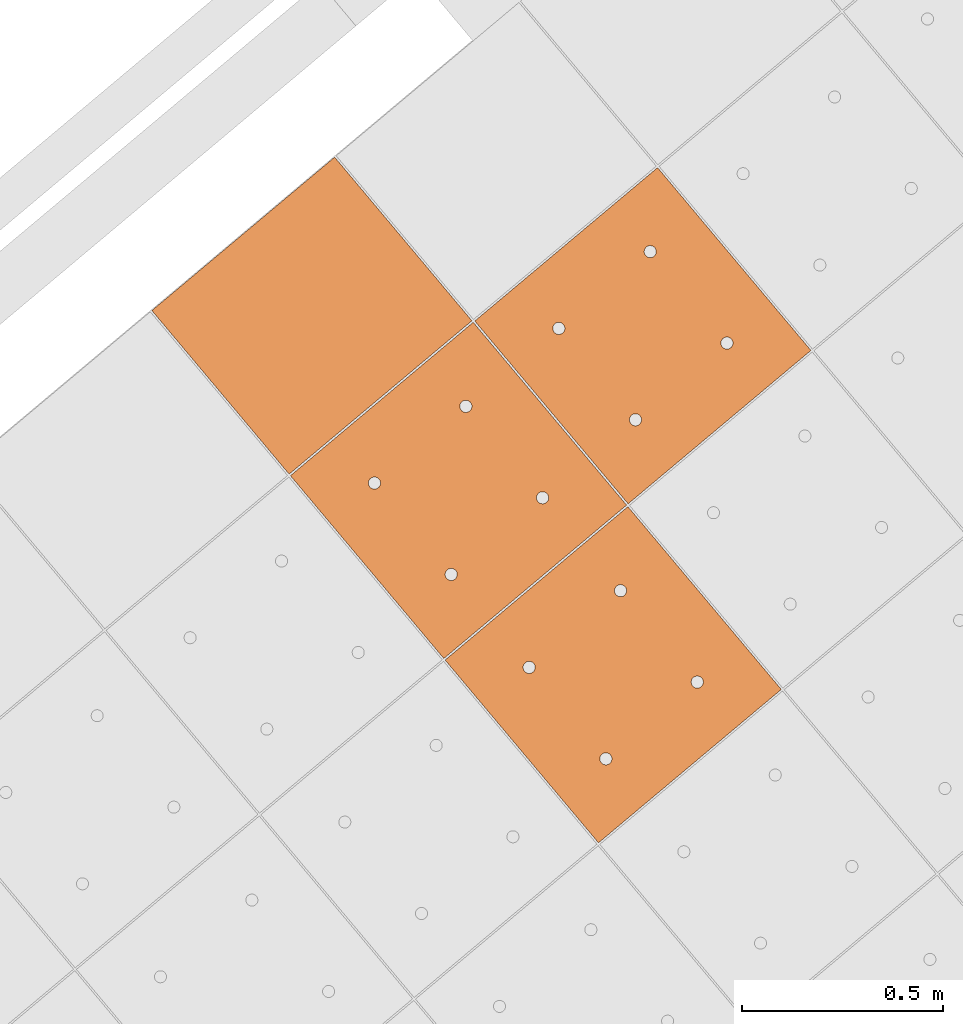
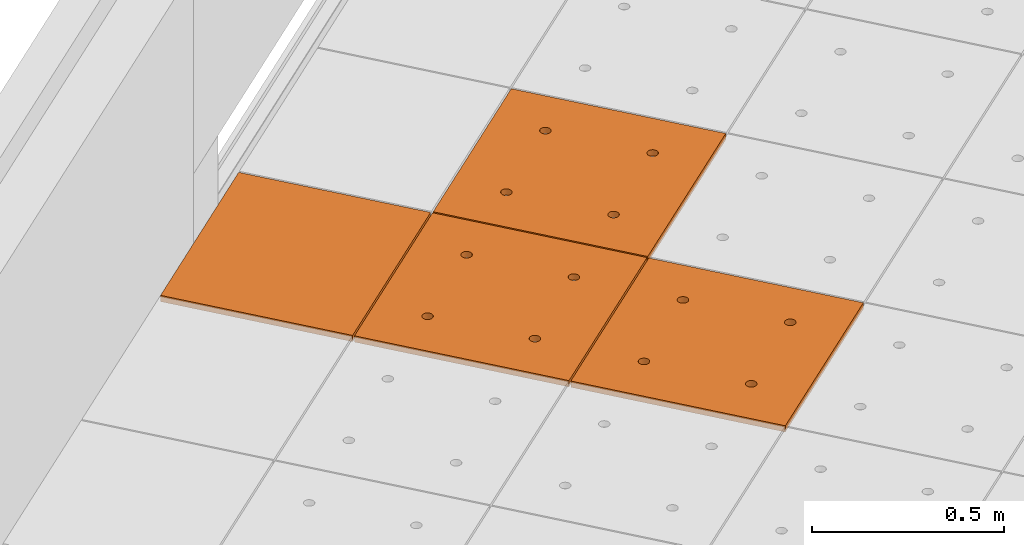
# One storey, part 154 of 338: 4 proxies, 1 element without a shape of its own.
"""IFC2X3 building model written with IfcOpenShell, lengths in millimetres."""

from ifc_helpers import new_model, entity, si_unit, converted_unit, derived_unit, money_unit, direction, frame, origin_with_axes, place, context, subcontext, project, spatial, faceted_brep, source, transform, mapped, material, type_object, type_shapes, element, aggregate, save


model = new_model("IFC2X3")

# Units and contexts
model_context = context("Model", 3, precision=0.01, world=origin_with_axes(), true_north=direction((0.0, 1.0)))
plan_context = context("Plan", 3, precision=0.01, world=origin_with_axes(), true_north=direction((0.0, 1.0)))
body_context = subcontext(model_context, "Body", "Model", "MODEL_VIEW")
ifc_project = project(units=[si_unit("LENGTHUNIT", "METRE", prefix="MILLI"), si_unit("AREAUNIT", "SQUARE_METRE"), si_unit("VOLUMEUNIT", "CUBIC_METRE"), converted_unit("PLANEANGLEUNIT", "DEGREE", entity("IfcPlaneAngleMeasure", 0.0174532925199), si_unit("PLANEANGLEUNIT", "RADIAN"), dimensions=[0, 0, 0, 0, 0, 0, 0]), money_unit("EUR"), converted_unit("TIMEUNIT", "Year", entity("IfcTimeMeasure", 31556926.0), si_unit("TIMEUNIT", "SECOND"), dimensions=[0, 0, 1, 0, 0, 0, 0]), si_unit("MASSUNIT", "GRAM", prefix="KILO"), si_unit("THERMODYNAMICTEMPERATUREUNIT", "DEGREE_CELSIUS"), si_unit("LUMINOUSINTENSITYUNIT", "LUMEN"), si_unit("ENERGYUNIT", "JOULE", prefix="MEGA"), derived_unit("THERMALCONDUCTANCEUNIT", [(si_unit("POWERUNIT", "WATT"), 1), (si_unit("LENGTHUNIT", "METRE"), -1), (si_unit("THERMODYNAMICTEMPERATUREUNIT", "KELVIN"), -1)]), derived_unit("SPECIFICHEATCAPACITYUNIT", [(si_unit("ENERGYUNIT", "JOULE"), 1), (si_unit("MASSUNIT", "GRAM", prefix="KILO"), -1), (si_unit("THERMODYNAMICTEMPERATUREUNIT", "KELVIN"), -1)]), derived_unit("MASSDENSITYUNIT", [(si_unit("MASSUNIT", "GRAM", prefix="KILO"), 1), (si_unit("VOLUMEUNIT", "CUBIC_METRE"), -1)])], contexts=[model_context, plan_context])

# Site, building, storey
site_placement = place(None, origin_with_axes())
site = spatial("IfcSite", under=ifc_project, at=site_placement, Name="Fortuinstraat Woensdrecht", CompositionType="ELEMENT")
building_placement = place(site_placement, origin_with_axes())
building = spatial("IfcBuilding", under=site, at=building_placement, Name="IKC Fortuna", CompositionType="ELEMENT")
storey_placement = place(building_placement, origin_with_axes())
storey = spatial("IfcBuildingStorey", under=building, at=storey_placement, Name="00 begane grond", CompositionType="ELEMENT", Elevation=0.0)

# Covering, proxies
covering_type = type_object("IfcCoveringType", Name="Curtain Wall Type", PredefinedType="CEILING")
covering_placement = place(storey_placement, frame((9775.85169731, -1002.28242867, 4660.0), z_axis=(0.0, 0.0, 1.0), x_axis=(1.0, 0.0, 0.0)))
covering = element("IfcCovering", 1, at=covering_placement, inside=storey, type_object=covering_type, Name="45_Plafondafwerking_P01", PredefinedType="CEILING")
ifc_material = material(Name="Gipsplaat")
building_element_proxy_type_1 = type_object("IfcBuildingElementProxyType", Name="Main Panel 600 x 600 x 20", PredefinedType="NOTDEFINED")
shared_shape_1 = source(origin_with_axes(), body_context, "Body", "Brep", [
    faceted_brep([(2.49999999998, 2.49999999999, -10.0), (300.0, 2.49999999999, -10.0), (300.0, 2.49999999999, 10.0), (2.49999999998, 2.49999999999, 10.0), (2.49999999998, 300.0, -10.0), (2.49999999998, 597.5, -10.0), (300.0, 597.5, -10.0), (597.5, 597.5, -10.0), (597.5, 300.0, -10.0), (597.5, 2.49999999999, -10.0), (166.25, 450.06232995, -10.0), (165.79423259, 452.64711538, -10.0), (164.896546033, 455.11348892, -10.0), (163.58421608, 457.38651108, -10.0), (161.897117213, 459.39711721, -10.0), (159.886511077, 461.08421608, -10.0), (157.613488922, 462.39654603, -10.0), (155.147115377, 463.29423259, -10.0), (152.562329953, 463.75, -10.0), (149.937670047, 463.75, -10.0), (147.352884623, 463.29423259, -10.0), (144.886511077, 462.39654603, -10.0), (142.613488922, 461.08421608, -10.0), (140.602882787, 459.39711721, -10.0), (138.91578392, 457.38651108, -10.0), (137.603453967, 455.11348892, -10.0), (136.705767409, 452.64711538, -10.0), (136.25, 450.06232995, -10.0), (136.25, 448.75, -10.0), (136.25, 447.43767005, -10.0), (136.705767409, 444.85288462, -10.0), (137.603453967, 442.38651108, -10.0), (138.91578392, 440.11348892, -10.0), (140.602882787, 438.10288279, -10.0), (142.613488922, 436.41578392, -10.0), (144.886511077, 435.10345397, -10.0), (147.352884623, 434.20576741, -10.0), (149.937670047, 433.75, -10.0), (152.562329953, 433.75, -10.0), (155.147115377, 434.20576741, -10.0), (157.613488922, 435.10345397, -10.0), (159.886511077, 436.41578392, -10.0), (161.897117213, 438.10288279, -10.0), (163.58421608, 440.11348892, -10.0), (164.896546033, 442.38651108, -10.0), (165.79423259, 444.85288462, -10.0), (166.25, 447.43767005, -10.0), (463.75, 450.06232995, -10.0), (463.29423259, 452.64711538, -10.0), (462.396546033, 455.11348892, -10.0), (461.08421608, 457.38651108, -10.0), (459.397117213, 459.39711721, -10.0), (457.386511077, 461.08421608, -10.0), (455.113488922, 462.39654603, -10.0), (452.647115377, 463.29423259, -10.0), (450.062329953, 463.75, -10.0), (447.437670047, 463.75, -10.0), (444.852884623, 463.29423259, -10.0), (442.386511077, 462.39654603, -10.0), (440.113488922, 461.08421608, -10.0), (438.102882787, 459.39711721, -10.0), (436.41578392, 457.38651108, -10.0), (435.103453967, 455.11348892, -10.0), (434.205767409, 452.64711538, -10.0), (433.75, 450.06232995, -10.0), (433.75, 448.75, -10.0), (433.75, 447.43767005, -10.0), (434.205767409, 444.85288462, -10.0), (435.103453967, 442.38651108, -10.0), (436.41578392, 440.11348892, -10.0), (438.102882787, 438.10288279, -10.0), (440.113488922, 436.41578392, -10.0), (442.386511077, 435.10345397, -10.0), (444.852884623, 434.20576741, -10.0), (447.437670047, 433.75, -10.0), (450.062329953, 433.75, -10.0), (452.647115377, 434.20576741, -10.0), (455.113488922, 435.10345397, -10.0), (457.386511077, 436.41578392, -10.0), (459.397117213, 438.10288279, -10.0), (461.08421608, 440.11348892, -10.0), (462.396546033, 442.38651108, -10.0), (463.29423259, 444.85288462, -10.0), (463.75, 447.43767005, -10.0), (463.75, 152.56232995, -10.0), (463.29423259, 155.14711538, -10.0), (462.396546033, 157.61348892, -10.0), (461.08421608, 159.88651108, -10.0), (459.397117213, 161.89711721, -10.0), (457.386511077, 163.58421608, -10.0), (455.113488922, 164.89654603, -10.0), (452.647115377, 165.79423259, -10.0), (450.062329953, 166.25, -10.0), (447.437670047, 166.25, -10.0), (444.852884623, 165.79423259, -10.0), (442.386511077, 164.89654603, -10.0), (440.113488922, 163.58421608, -10.0), (438.102882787, 161.89711721, -10.0), (436.41578392, 159.88651108, -10.0), (435.103453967, 157.61348892, -10.0), (434.205767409, 155.14711538, -10.0), (433.75, 152.56232995, -10.0), (433.75, 151.25, -10.0), (433.75, 149.93767005, -10.0), (434.205767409, 147.35288462, -10.0), (435.103453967, 144.88651108, -10.0), (436.41578392, 142.61348892, -10.0), (438.102882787, 140.60288279, -10.0), (440.113488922, 138.91578392, -10.0), (442.386511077, 137.60345397, -10.0), (444.852884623, 136.70576741, -10.0), (447.437670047, 136.25, -10.0), (450.062329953, 136.25, -10.0), (452.647115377, 136.70576741, -10.0), (455.113488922, 137.60345397, -10.0), (457.386511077, 138.91578392, -10.0), (459.397117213, 140.60288279, -10.0), (461.08421608, 142.61348892, -10.0), (462.396546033, 144.88651108, -10.0), (463.29423259, 147.35288462, -10.0), (463.75, 149.93767005, -10.0), (166.25, 152.56232995, -10.0), (165.79423259, 155.14711538, -10.0), (164.896546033, 157.61348892, -10.0), (163.58421608, 159.88651108, -10.0), (161.897117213, 161.89711721, -10.0), (159.886511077, 163.58421608, -10.0), (157.613488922, 164.89654603, -10.0), (155.147115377, 165.79423259, -10.0), (152.562329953, 166.25, -10.0), (149.937670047, 166.25, -10.0), (147.352884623, 165.79423259, -10.0), (144.886511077, 164.89654603, -10.0), (142.613488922, 163.58421608, -10.0), (140.602882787, 161.89711721, -10.0), (138.91578392, 159.88651108, -10.0), (137.603453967, 157.61348892, -10.0), (136.705767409, 155.14711538, -10.0), (136.25, 152.56232995, -10.0), (136.25, 151.25, -10.0), (136.25, 149.93767005, -10.0), (136.705767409, 147.35288462, -10.0), (137.603453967, 144.88651108, -10.0), (138.91578392, 142.61348892, -10.0), (140.602882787, 140.60288279, -10.0), (142.613488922, 138.91578392, -10.0), (144.886511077, 137.60345397, -10.0), (147.352884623, 136.70576741, -10.0), (149.937670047, 136.25, -10.0), (152.562329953, 136.25, -10.0), (155.147115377, 136.70576741, -10.0), (157.613488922, 137.60345397, -10.0), (159.886511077, 138.91578392, -10.0), (161.897117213, 140.60288279, -10.0), (163.58421608, 142.61348892, -10.0), (164.896546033, 144.88651108, -10.0), (165.79423259, 147.35288462, -10.0), (166.25, 149.93767005, -10.0), (597.5, 2.49999999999, 10.0), (597.5, 300.0, 10.0), (597.5, 597.5, 10.0), (300.0, 597.5, 10.0), (2.49999999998, 597.5, 10.0), (2.49999999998, 300.0, 10.0), (166.25, 450.06232995, 10.0), (166.25, 447.43767005, 10.0), (165.79423259, 444.85288462, 10.0), (164.896546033, 442.38651108, 10.0), (163.58421608, 440.11348892, 10.0), (161.897117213, 438.10288279, 10.0), (159.886511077, 436.41578392, 10.0), (157.613488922, 435.10345397, 10.0), (155.147115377, 434.20576741, 10.0), (152.562329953, 433.75, 10.0), (149.937670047, 433.75, 10.0), (147.352884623, 434.20576741, 10.0), (144.886511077, 435.10345397, 10.0), (142.613488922, 436.41578392, 10.0), (140.602882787, 438.10288279, 10.0), (138.91578392, 440.11348892, 10.0), (137.603453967, 442.38651108, 10.0), (136.705767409, 444.85288462, 10.0), (136.25, 447.43767005, 10.0), (136.25, 448.75, 10.0), (136.25, 450.06232995, 10.0), (136.705767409, 452.64711538, 10.0), (137.603453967, 455.11348892, 10.0), (138.91578392, 457.38651108, 10.0), (140.602882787, 459.39711721, 10.0), (142.613488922, 461.08421608, 10.0), (144.886511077, 462.39654603, 10.0), (147.352884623, 463.29423259, 10.0), (149.937670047, 463.75, 10.0), (152.562329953, 463.75, 10.0), (155.147115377, 463.29423259, 10.0), (157.613488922, 462.39654603, 10.0), (159.886511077, 461.08421608, 10.0), (161.897117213, 459.39711721, 10.0), (163.58421608, 457.38651108, 10.0), (164.896546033, 455.11348892, 10.0), (165.79423259, 452.64711538, 10.0), (463.75, 450.06232995, 10.0), (463.75, 447.43767005, 10.0), (463.29423259, 444.85288462, 10.0), (462.396546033, 442.38651108, 10.0), (461.08421608, 440.11348892, 10.0), (459.397117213, 438.10288279, 10.0), (457.386511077, 436.41578392, 10.0), (455.113488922, 435.10345397, 10.0), (452.647115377, 434.20576741, 10.0), (450.062329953, 433.75, 10.0), (447.437670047, 433.75, 10.0), (444.852884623, 434.20576741, 10.0), (442.386511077, 435.10345397, 10.0), (440.113488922, 436.41578392, 10.0), (438.102882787, 438.10288279, 10.0), (436.41578392, 440.11348892, 10.0), (435.103453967, 442.38651108, 10.0), (434.205767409, 444.85288462, 10.0), (433.75, 447.43767005, 10.0), (433.75, 448.75, 10.0), (433.75, 450.06232995, 10.0), (434.205767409, 452.64711538, 10.0), (435.103453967, 455.11348892, 10.0), (436.41578392, 457.38651108, 10.0), (438.102882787, 459.39711721, 10.0), (440.113488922, 461.08421608, 10.0), (442.386511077, 462.39654603, 10.0), (444.852884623, 463.29423259, 10.0), (447.437670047, 463.75, 10.0), (450.062329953, 463.75, 10.0), (452.647115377, 463.29423259, 10.0), (455.113488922, 462.39654603, 10.0), (457.386511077, 461.08421608, 10.0), (459.397117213, 459.39711721, 10.0), (461.08421608, 457.38651108, 10.0), (462.396546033, 455.11348892, 10.0), (463.29423259, 452.64711538, 10.0), (463.75, 152.56232995, 10.0), (463.75, 149.93767005, 10.0), (463.29423259, 147.35288462, 10.0), (462.396546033, 144.88651108, 10.0), (461.08421608, 142.61348892, 10.0), (459.397117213, 140.60288279, 10.0), (457.386511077, 138.91578392, 10.0), (455.113488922, 137.60345397, 10.0), (452.647115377, 136.70576741, 10.0), (450.062329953, 136.25, 10.0), (447.437670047, 136.25, 10.0), (444.852884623, 136.70576741, 10.0), (442.386511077, 137.60345397, 10.0), (440.113488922, 138.91578392, 10.0), (438.102882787, 140.60288279, 10.0), (436.41578392, 142.61348892, 10.0), (435.103453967, 144.88651108, 10.0), (434.205767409, 147.35288462, 10.0), (433.75, 149.93767005, 10.0), (433.75, 151.25, 10.0), (433.75, 152.56232995, 10.0), (434.205767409, 155.14711538, 10.0), (435.103453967, 157.61348892, 10.0), (436.41578392, 159.88651108, 10.0), (438.102882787, 161.89711721, 10.0), (440.113488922, 163.58421608, 10.0), (442.386511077, 164.89654603, 10.0), (444.852884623, 165.79423259, 10.0), (447.437670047, 166.25, 10.0), (450.062329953, 166.25, 10.0), (452.647115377, 165.79423259, 10.0), (455.113488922, 164.89654603, 10.0), (457.386511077, 163.58421608, 10.0), (459.397117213, 161.89711721, 10.0), (461.08421608, 159.88651108, 10.0), (462.396546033, 157.61348892, 10.0), (463.29423259, 155.14711538, 10.0), (166.25, 152.56232995, 10.0), (166.25, 149.93767005, 10.0), (165.79423259, 147.35288462, 10.0), (164.896546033, 144.88651108, 10.0), (163.58421608, 142.61348892, 10.0), (161.897117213, 140.60288279, 10.0), (159.886511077, 138.91578392, 10.0), (157.613488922, 137.60345397, 10.0), (155.147115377, 136.70576741, 10.0), (152.562329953, 136.25, 10.0), (149.937670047, 136.25, 10.0), (147.352884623, 136.70576741, 10.0), (144.886511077, 137.60345397, 10.0), (142.613488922, 138.91578392, 10.0), (140.602882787, 140.60288279, 10.0), (138.91578392, 142.61348892, 10.0), (137.603453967, 144.88651108, 10.0), (136.705767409, 147.35288462, 10.0), (136.25, 149.93767005, 10.0), (136.25, 151.25, 10.0), (136.25, 152.56232995, 10.0), (136.705767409, 155.14711538, 10.0), (137.603453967, 157.61348892, 10.0), (138.91578392, 159.88651108, 10.0), (140.602882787, 161.89711721, 10.0), (142.613488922, 163.58421608, 10.0), (144.886511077, 164.89654603, 10.0), (147.352884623, 165.79423259, 10.0), (149.937670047, 166.25, 10.0), (152.562329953, 166.25, 10.0), (155.147115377, 165.79423259, 10.0), (157.613488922, 164.89654603, 10.0), (159.886511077, 163.58421608, 10.0), (161.897117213, 161.89711721, 10.0), (163.58421608, 159.88651108, 10.0), (164.896546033, 157.61348892, 10.0), (165.79423259, 155.14711538, 10.0)], [[[0, 1, 2, 3]], [[0, 4, 5, 6, 7, 8, 9, 1], [10, 11, 12, 13, 14, 15, 16, 17, 18, 19, 20, 21, 22, 23, 24, 25, 26, 27, 28, 29, 30, 31, 32, 33, 34, 35, 36, 37, 38, 39, 40, 41, 42, 43, 44, 45, 46], [47, 48, 49, 50, 51, 52, 53, 54, 55, 56, 57, 58, 59, 60, 61, 62, 63, 64, 65, 66, 67, 68, 69, 70, 71, 72, 73, 74, 75, 76, 77, 78, 79, 80, 81, 82, 83], [84, 85, 86, 87, 88, 89, 90, 91, 92, 93, 94, 95, 96, 97, 98, 99, 100, 101, 102, 103, 104, 105, 106, 107, 108, 109, 110, 111, 112, 113, 114, 115, 116, 117, 118, 119, 120], [121, 122, 123, 124, 125, 126, 127, 128, 129, 130, 131, 132, 133, 134, 135, 136, 137, 138, 139, 140, 141, 142, 143, 144, 145, 146, 147, 148, 149, 150, 151, 152, 153, 154, 155, 156, 157]], [[1, 9, 158, 2]], [[3, 2, 158, 159, 160, 161, 162, 163], [164, 165, 166, 167, 168, 169, 170, 171, 172, 173, 174, 175, 176, 177, 178, 179, 180, 181, 182, 183, 184, 185, 186, 187, 188, 189, 190, 191, 192, 193, 194, 195, 196, 197, 198, 199, 200], [201, 202, 203, 204, 205, 206, 207, 208, 209, 210, 211, 212, 213, 214, 215, 216, 217, 218, 219, 220, 221, 222, 223, 224, 225, 226, 227, 228, 229, 230, 231, 232, 233, 234, 235, 236, 237], [238, 239, 240, 241, 242, 243, 244, 245, 246, 247, 248, 249, 250, 251, 252, 253, 254, 255, 256, 257, 258, 259, 260, 261, 262, 263, 264, 265, 266, 267, 268, 269, 270, 271, 272, 273, 274], [275, 276, 277, 278, 279, 280, 281, 282, 283, 284, 285, 286, 287, 288, 289, 290, 291, 292, 293, 294, 295, 296, 297, 298, 299, 300, 301, 302, 303, 304, 305, 306, 307, 308, 309, 310, 311]], [[4, 0, 3, 163]], [[5, 4, 163, 162]], [[6, 5, 162, 161]], [[7, 6, 161, 160]], [[8, 7, 160, 159]], [[9, 8, 159, 158]], [[11, 10, 164, 200]], [[12, 11, 200, 199]], [[13, 12, 199, 198]], [[14, 13, 198, 197]], [[15, 14, 197, 196]], [[16, 15, 196, 195]], [[17, 16, 195, 194]], [[18, 17, 194, 193]], [[19, 18, 193, 192]], [[20, 19, 192, 191]], [[21, 20, 191, 190]], [[22, 21, 190, 189]], [[23, 22, 189, 188]], [[24, 23, 188, 187]], [[25, 24, 187, 186]], [[26, 25, 186, 185]], [[27, 26, 185, 184]], [[28, 27, 184, 183]], [[29, 28, 183, 182]], [[30, 29, 182, 181]], [[31, 30, 181, 180]], [[32, 31, 180, 179]], [[33, 32, 179, 178]], [[34, 33, 178, 177]], [[35, 34, 177, 176]], [[36, 35, 176, 175]], [[37, 36, 175, 174]], [[38, 37, 174, 173]], [[39, 38, 173, 172]], [[40, 39, 172, 171]], [[41, 40, 171, 170]], [[42, 41, 170, 169]], [[43, 42, 169, 168]], [[44, 43, 168, 167]], [[45, 44, 167, 166]], [[46, 45, 166, 165]], [[10, 46, 165, 164]], [[48, 47, 201, 237]], [[49, 48, 237, 236]], [[50, 49, 236, 235]], [[51, 50, 235, 234]], [[52, 51, 234, 233]], [[53, 52, 233, 232]], [[54, 53, 232, 231]], [[55, 54, 231, 230]], [[56, 55, 230, 229]], [[57, 56, 229, 228]], [[58, 57, 228, 227]], [[59, 58, 227, 226]], [[60, 59, 226, 225]], [[61, 60, 225, 224]], [[62, 61, 224, 223]], [[63, 62, 223, 222]], [[64, 63, 222, 221]], [[65, 64, 221, 220]], [[66, 65, 220, 219]], [[67, 66, 219, 218]], [[68, 67, 218, 217]], [[69, 68, 217, 216]], [[70, 69, 216, 215]], [[71, 70, 215, 214]], [[72, 71, 214, 213]], [[73, 72, 213, 212]], [[74, 73, 212, 211]], [[75, 74, 211, 210]], [[76, 75, 210, 209]], [[77, 76, 209, 208]], [[78, 77, 208, 207]], [[79, 78, 207, 206]], [[80, 79, 206, 205]], [[81, 80, 205, 204]], [[82, 81, 204, 203]], [[83, 82, 203, 202]], [[47, 83, 202, 201]], [[85, 84, 238, 274]], [[86, 85, 274, 273]], [[87, 86, 273, 272]], [[88, 87, 272, 271]], [[89, 88, 271, 270]], [[90, 89, 270, 269]], [[91, 90, 269, 268]], [[92, 91, 268, 267]], [[93, 92, 267, 266]], [[94, 93, 266, 265]], [[95, 94, 265, 264]], [[96, 95, 264, 263]], [[97, 96, 263, 262]], [[98, 97, 262, 261]], [[99, 98, 261, 260]], [[100, 99, 260, 259]], [[101, 100, 259, 258]], [[102, 101, 258, 257]], [[103, 102, 257, 256]], [[104, 103, 256, 255]], [[105, 104, 255, 254]], [[106, 105, 254, 253]], [[107, 106, 253, 252]], [[108, 107, 252, 251]], [[109, 108, 251, 250]], [[110, 109, 250, 249]], [[111, 110, 249, 248]], [[112, 111, 248, 247]], [[113, 112, 247, 246]], [[114, 113, 246, 245]], [[115, 114, 245, 244]], [[116, 115, 244, 243]], [[117, 116, 243, 242]], [[118, 117, 242, 241]], [[119, 118, 241, 240]], [[120, 119, 240, 239]], [[84, 120, 239, 238]], [[122, 121, 275, 311]], [[123, 122, 311, 310]], [[124, 123, 310, 309]], [[125, 124, 309, 308]], [[126, 125, 308, 307]], [[127, 126, 307, 306]], [[128, 127, 306, 305]], [[129, 128, 305, 304]], [[130, 129, 304, 303]], [[131, 130, 303, 302]], [[132, 131, 302, 301]], [[133, 132, 301, 300]], [[134, 133, 300, 299]], [[135, 134, 299, 298]], [[136, 135, 298, 297]], [[137, 136, 297, 296]], [[138, 137, 296, 295]], [[139, 138, 295, 294]], [[140, 139, 294, 293]], [[141, 140, 293, 292]], [[142, 141, 292, 291]], [[143, 142, 291, 290]], [[144, 143, 290, 289]], [[145, 144, 289, 288]], [[146, 145, 288, 287]], [[147, 146, 287, 286]], [[148, 147, 286, 285]], [[149, 148, 285, 284]], [[150, 149, 284, 283]], [[151, 150, 283, 282]], [[152, 151, 282, 281]], [[153, 152, 281, 280]], [[154, 153, 280, 279]], [[155, 154, 279, 278]], [[156, 155, 278, 277]], [[157, 156, 277, 276]], [[121, 157, 276, 275]]]),
])
type_shapes(building_element_proxy_type_1, [shared_shape_1])
proxy_1_placement = place(covering_placement, frame((-6614.48624708, 2282.22960183, 1.37667655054e-10), z_axis=(0.0, 0.0, 1.0), x_axis=(1.0, 0.0, 0.0)))
proxy_1 = element("IfcBuildingElementProxy", 2, at=proxy_1_placement, type_object=building_element_proxy_type_1, material=ifc_material, Name="__600x608 Rockfon Krios", context=body_context, shape_type="MappedRepresentation", body=[
    mapped(shared_shape_1, transform((36.9769427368, 422.649625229, 0.0), x_axis=(-0.766044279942, -0.642787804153, 0.0), y_axis=(0.642787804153, -0.766044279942, 0.0), z_axis=(0.0, 0.0, 1.0))),
])
proxy_2_placement = place(covering_placement, frame((-7074.11281504, 1896.55691933, 1.57207580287e-10), z_axis=(0.0, 0.0, 1.0), x_axis=(1.0, 0.0, 0.0)))
proxy_2 = element("IfcBuildingElementProxy", 3, at=proxy_2_placement, type_object=building_element_proxy_type_1, material=ifc_material, Name="__600x609 Rockfon Krios", context=body_context, shape_type="MappedRepresentation", body=[
    mapped(shared_shape_1, transform((36.9769427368, 422.649625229, 0.0), x_axis=(-0.766044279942, -0.642787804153, 0.0), y_axis=(0.642787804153, -0.766044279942, 0.0), z_axis=(0.0, 0.0, 1.0))),
])
proxy_3_placement = place(covering_placement, frame((-6688.44013255, 1436.93035137, 1.57207580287e-10), z_axis=(0.0, 0.0, 1.0), x_axis=(1.0, 0.0, 0.0)))
proxy_3 = element("IfcBuildingElementProxy", 4, at=proxy_3_placement, type_object=building_element_proxy_type_1, material=ifc_material, Name="__600x638 Rockfon Krios", context=body_context, shape_type="MappedRepresentation", body=[
    mapped(shared_shape_1, transform((36.9769427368, 422.649625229, 0.0), x_axis=(-0.766044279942, -0.642787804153, 0.0), y_axis=(0.642787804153, -0.766044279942, 0.0), z_axis=(0.0, 0.0, 1.0))),
])
building_element_proxy_type_2 = type_object("IfcBuildingElementProxyType", Name="600 x 538 x 20", PredefinedType="NOTDEFINED")
shared_shape_2 = source(origin_with_axes(), body_context, "Body", "Brep", [
    faceted_brep([(2.49999365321, 64.9091355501, -10.0), (597.500000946, 64.9091687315, -10.0), (597.500000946, 64.9091687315, 10.0), (2.49999365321, 64.9091355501, 10.0), (2.4999941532, 597.500000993, -10.0), (597.499996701, 597.499991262, -10.0), (597.499996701, 597.499991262, 10.0), (2.4999941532, 597.500000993, 10.0)], [[[0, 1, 2, 3]], [[0, 4, 5, 1]], [[1, 5, 6, 2]], [[3, 2, 6, 7]], [[4, 0, 3, 7]], [[5, 4, 7, 6]]]),
])
type_shapes(building_element_proxy_type_2, [shared_shape_2])
proxy_4_placement = place(covering_placement, frame((-7439.72758253, 2332.27940736, 1.57207580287e-10), z_axis=(0.0, 0.0, 1.0), x_axis=(1.0, 0.0, 0.0)))
proxy_4 = element("IfcBuildingElementProxy", 5, at=proxy_4_placement, type_object=building_element_proxy_type_2, material=ifc_material, Name="__600x743 Rockfon Krios", context=body_context, shape_type="MappedRepresentation", body=[
    mapped(shared_shape_2, transform((16.9190277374, 446.553705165, 0.0), x_axis=(-0.766044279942, -0.642787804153, 0.0), y_axis=(0.642787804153, -0.766044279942, 0.0), z_axis=(0.0, 0.0, 1.0))),
])
aggregate(covering, [proxy_1, proxy_2, proxy_3, proxy_4])

save(model, "model.ifc")
